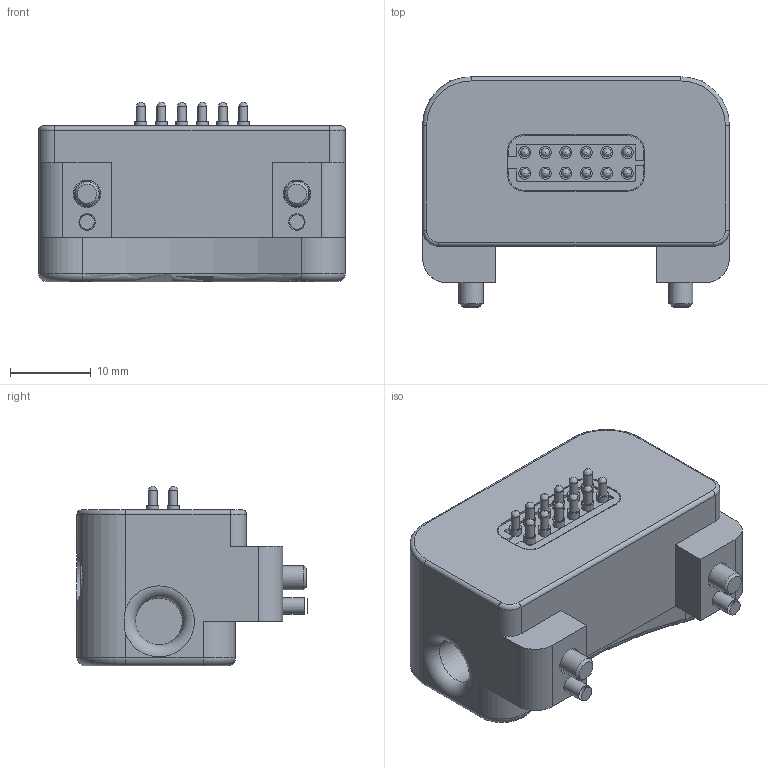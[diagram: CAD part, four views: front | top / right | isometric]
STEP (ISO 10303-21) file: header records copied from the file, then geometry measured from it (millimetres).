
FILE_DESCRIPTION(/* description */ (''),/* implementation_level */ '2;1');
FILE_NAME(/* name */ 'G-SEK100-U-1FE12.stp',/* time_stamp */ '2023-12-19T13:51:08+01:00',/* author */ ('vbednarz'),/* organization */ (''),/* preprocessor_version */ 'ST-DEVELOPER v20',/* originating_system */ 'Autodesk Inventor 2024',/* authorisation */ '');
FILE_SCHEMA (('AUTOMOTIVE_DESIGN { 1 0 10303 214 3 1 1 }'));
Length unit declared in the file: millimetre
Products named in the file (1): G-SEK100-U-1FE12
Bounding box: 38 x 28.5 x 22.24 mm (x, y, z)
Volume: 14755.9 mm3; surface area: 6047.5 mm2
Topology: 5 solids, 5 shells, 256 faces, 594 edges, 390 vertices
Faces by surface type: plane 125, cylinder 79, cone 22, torus 18, bspline 12
Full cylindrical faces by diameter (mm): 1.07 x12, 1.5 x12, 1.8 x2, 2 x2, 2.02 x2, 2.05 x4, 3 x2, 3.4 x2, 4.5 x4, 5 x4, 5.5 x2, 5.8 x1, 6 x2
Entity records: 8103 total; most frequent: CARTESIAN_POINT 1861, DIRECTION 1269, ORIENTED_EDGE 1170, EDGE_CURVE 585, AXIS2_PLACEMENT_3D 499, VERTEX_POINT 388, EDGE_LOOP 309, LINE 271
